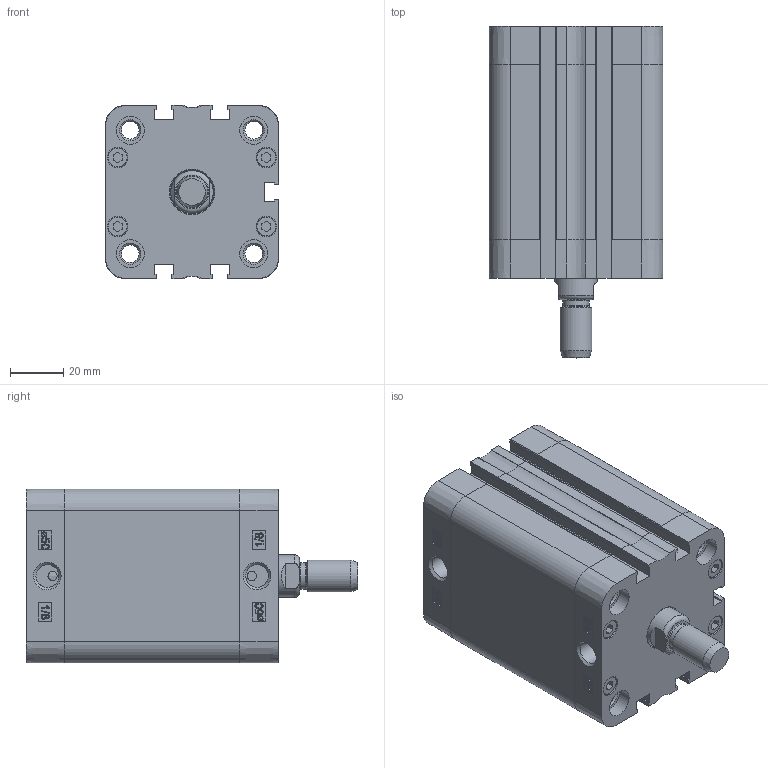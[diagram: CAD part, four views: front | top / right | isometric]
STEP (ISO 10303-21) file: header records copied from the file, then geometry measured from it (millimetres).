
FILE_DESCRIPTION((''),'2;1');
FILE_NAME('T:\Archivio Inventor\- CATALOGHI 2012\SERIE P - NUOVA\PDM\PDM050\PDM050.---.GS.M\PDM050.050.GS.M.stp','2013-02-01T12:19:30',('Administrator'),(''),'Autodesk Inventor 2012','Autodesk Inventor 2012','');
FILE_SCHEMA(('CONFIG_CONTROL_DESIGN'));
Length unit declared in the file: millimetre
Products named in the file (1): PDM050.050.GS.M
Bounding box: 65.5 x 125 x 65.5 mm (x, y, z)
Volume: 207303.2 mm3; surface area: 80950.2 mm2
Topology: 2 solids, 6 shells, 780 faces, 1860 edges, 1167 vertices
Faces by surface type: plane 335, bspline 196, cylinder 131, torus 56, cone 46, sphere 16
Full cylindrical faces by diameter (mm): 3.5 x2, 5.2 x4, 6.647 x8, 7.5 x8, 7.7 x8, 8.047 x4, 8.566 x2, 10 x1, 10.5 x8, 12 x2, 16 x1, 16.5 x1, 50 x1, 52.4 x1, 52.6 x1
Entity records: 25595 total; most frequent: CARTESIAN_POINT 8480, ORIENTED_EDGE 3488, DIRECTION 2866, EDGE_CURVE 1744, VERTEX_POINT 1148, AXIS2_PLACEMENT_3D 978, EDGE_LOOP 962, VECTOR 910
